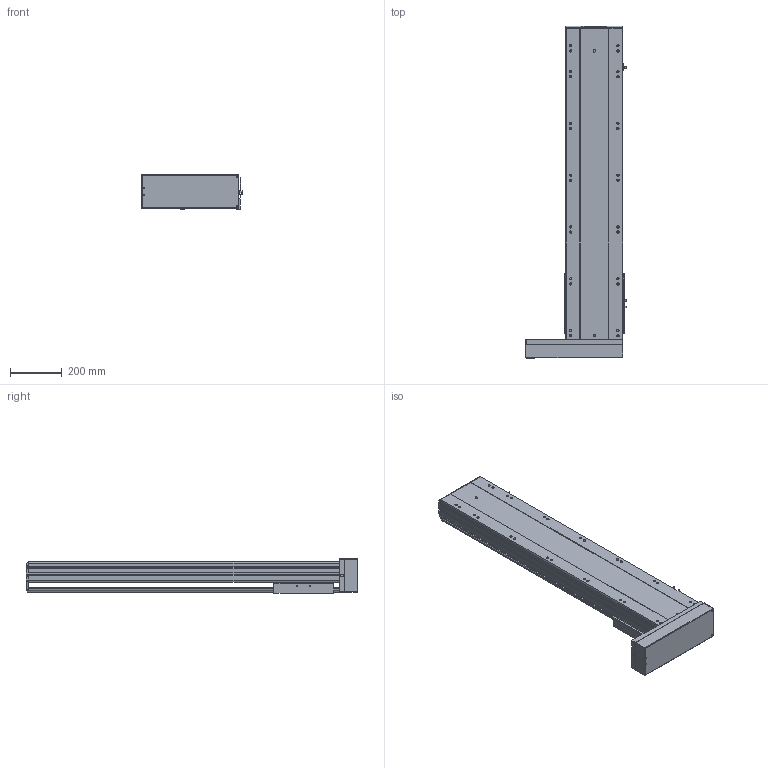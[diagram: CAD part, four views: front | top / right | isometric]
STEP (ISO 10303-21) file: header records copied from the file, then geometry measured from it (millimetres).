
FILE_DESCRIPTION (( 'STEP AP203' ), '1' );
FILE_NAME ('90.STEP', '2022-07-01T12:46:46', ( '' ), ( '' ), 'SwSTEP 2.0', 'SolidWorks 2016', '' );
FILE_SCHEMA (( 'CONFIG_CONTROL_DESIGN' ));
Length unit declared in the file: millimetre
Products named in the file (7): BTH22-BL-06-PCD145; BTH22-BL-菁釱; BTH22-BL-HZ; H130-PCD145; 90; BTH22-BL-04; BTH22-BL-01
Assembly tree (8 placements, depth 2):
  90
    BTH22-BL-菁釱
    BTH22-BL-01
    BTH22-BL-04  x3
    BTH22-BL-HZ
    BTH22-BL-06-PCD145
    H130-PCD145
Bounding box: 389.2 x 1282 x 134 mm (x, y, z)
Volume: 15857623 mm3; surface area: 2184224.2 mm2
Topology: 10 solids, 10 shells, 1181 faces, 3273 edges, 2131 vertices
Faces by surface type: plane 634, cylinder 419, bspline 86, cone 42
Entity records: 122774 total; most frequent: CARTESIAN_POINT 56371, ORIENTED_EDGE 14165, DIRECTION 12490, EDGE_CURVE 7588, VERTEX_POINT 4944, AXIS2_PLACEMENT_3D 4592, VECTOR 3306, LINE 3306
